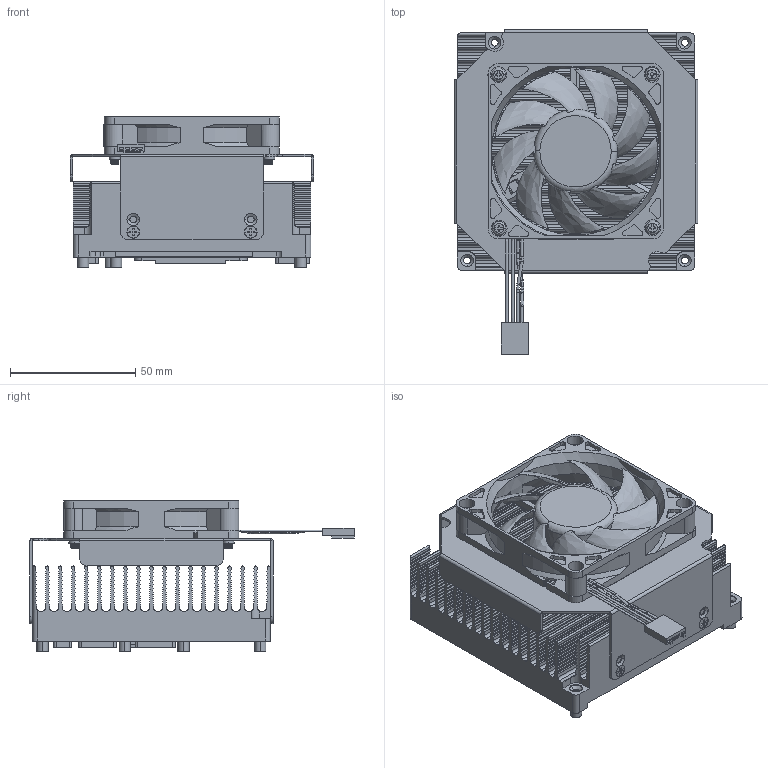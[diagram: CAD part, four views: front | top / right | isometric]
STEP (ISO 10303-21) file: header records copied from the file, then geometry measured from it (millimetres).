
FILE_DESCRIPTION((''),'2;1');
FILE_NAME('E196112X120001R-ALL-IN-ONE_ASM','2025-06-17T16:25:02',('arvin_tsai'),(''),'CREO PARAMETRIC BY PTC INC, 2024063','CREO PARAMETRIC BY PTC INC, 2024063','');
FILE_SCHEMA(('CONFIG_CONTROL_DESIGN'));
Products named in the file (14): COMEXPRESS_95X95_STAND_2_1; E196121X100001R_2_1; E1756210600R_2_1_1; E1756210600R_2_2_1; E1756210600R_2_ASM_1_ASM; E1931010401R_2_1; SCREW_3_14_1_1; ESM-ASLC_HEATSPREADER-CU; E196112X120001R_ASM_8_ASM_1_ASM; E1931030801R_4_1; ESM-ASLC-HEATSPERDER_ASM_12_ASM_ASM; ESM-ASLC-HEATSPERDER_ASM_ASM_1_ASM; E196112X120000R-ALL-IN-ONE_ASM__ASM; E196112X120001R-ALL-IN-ONE_ASM
Assembly tree (20 placements, depth 5):
  E196112X120001R-ALL-IN-ONE_ASM
    E196112X120000R-ALL-IN-ONE_ASM__ASM
      E196112X120001R_ASM_8_ASM_1_ASM
        COMEXPRESS_95X95_STAND_2_1
        E196121X100001R_2_1
        E1756210600R_2_ASM_1_ASM
          E1756210600R_2_1_1
          E1756210600R_2_2_1
        E1931010401R_2_1  x4
        SCREW_3_14_1_1  x4
        ESM-ASLC_HEATSPREADER-CU
      ESM-ASLC-HEATSPERDER_ASM_ASM_1_ASM
        ESM-ASLC-HEATSPERDER_ASM_12_ASM_ASM
          E1931030801R_4_1  x2
Bounding box: 97.3 x 129.7 x 60 mm (x, y, z)
Volume: 178756.3 mm3; surface area: 137429.5 mm2
Topology: 15 solids, 22 shells, 3305 faces, 10918 edges, 7699 vertices
Faces by surface type: cylinder 1529, plane 1403, bspline 182, cone 91, torus 58, extrusion 34, revolution 8
Entity records: 132571 total; most frequent: CARTESIAN_POINT 47913, ORIENTED_EDGE 18920, DIRECTION 17326, EDGE_CURVE 9480, VERTEX_POINT 6756, AXIS2_PLACEMENT_3D 6374, VECTOR 4570, LINE 4536
